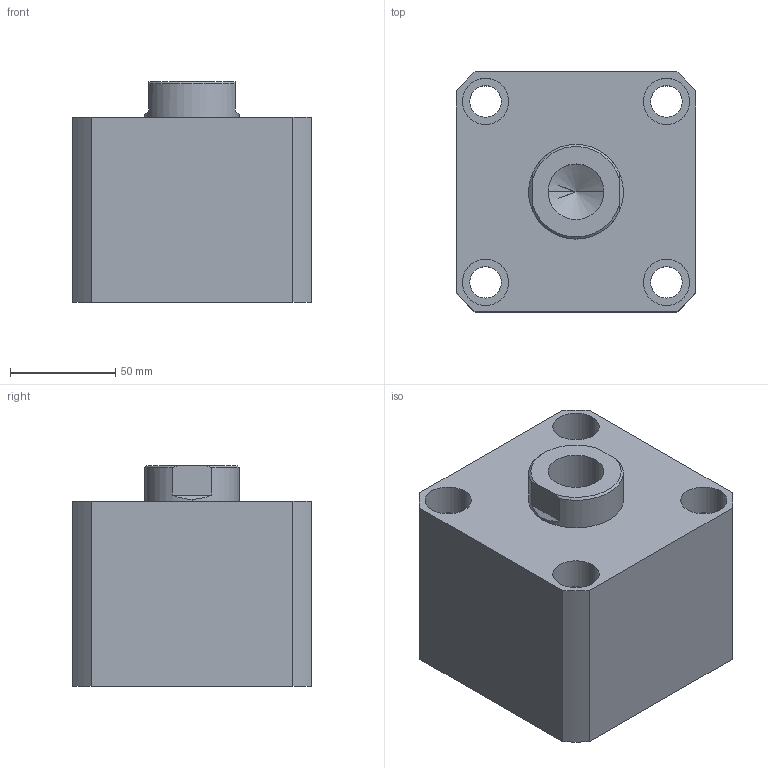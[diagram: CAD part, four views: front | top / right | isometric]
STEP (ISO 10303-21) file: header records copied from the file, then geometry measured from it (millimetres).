
FILE_DESCRIPTION (( 'STEP AP203' ), '1' );
FILE_NAME ('HTB-SDMB80-10N.STEP', '2019-10-09T05:57:13', ( '微软用户' ), ( '微软中国' ), 'SwSTEP 2.0', 'SolidWorks 2012', '' );
FILE_SCHEMA (( 'CONFIG_CONTROL_DESIGN' ));
Length unit declared in the file: millimetre
Products named in the file (3): HTB-SDMB80-10掛极; HTB-SDMB80-10N; HTB-SDMB80-10N活塞杆
Assembly tree (2 placements, depth 2):
  HTB-SDMB80-10N
    HTB-SDMB80-10掛极
    HTB-SDMB80-10N活塞杆
Bounding box: 114 x 114 x 105 mm (x, y, z)
Volume: 1011708 mm3; surface area: 133260.7 mm2
Topology: 2 solids, 2 shells, 137 faces, 331 edges, 217 vertices
Faces by surface type: plane 65, cylinder 46, bspline 16, torus 6, cone 4
Entity records: 5070 total; most frequent: CARTESIAN_POINT 1576, ORIENTED_EDGE 658, DIRECTION 647, EDGE_CURVE 329, AXIS2_PLACEMENT_3D 232, VERTEX_POINT 217, VECTOR 183, LINE 183
